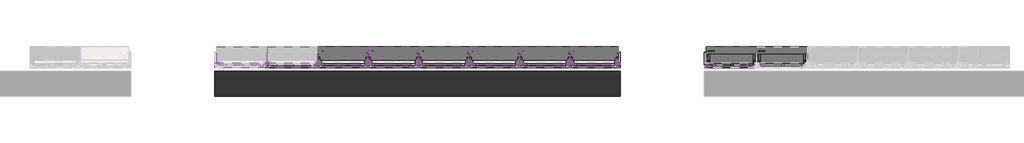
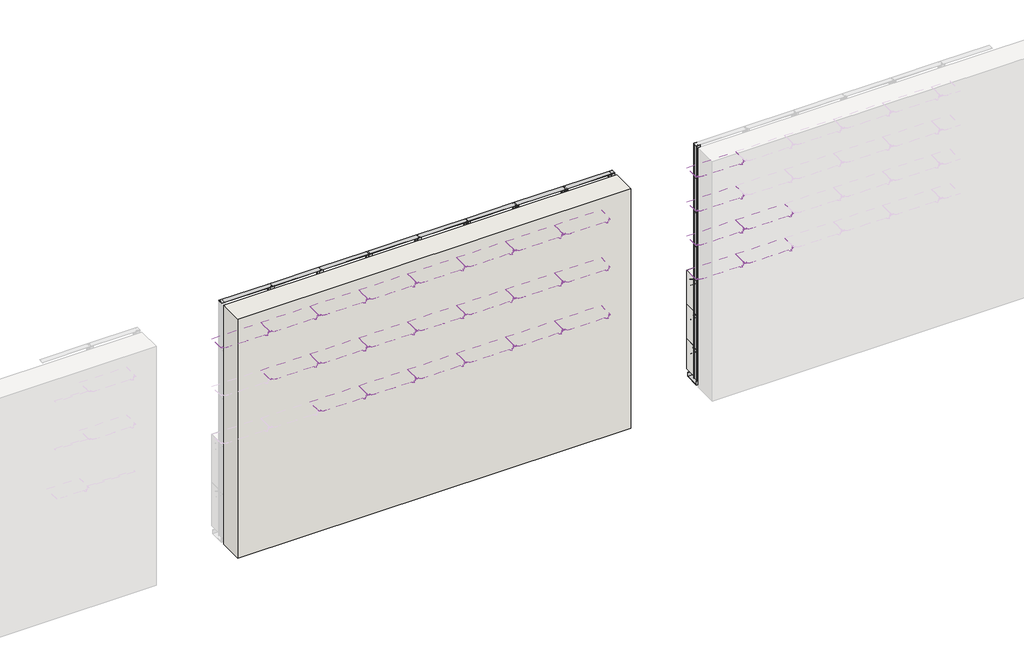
# One storey, part 2 of 3: 65 members, 45 coverings, 1 wall.
"""IFC4 building model written with IfcOpenShell, lengths in millimetres."""

from ifc_helpers import new_model, si_unit, origin, origin_with_axes, place, context, project, spatial, polyline, outline, extrude, transform, mapped, element, save
from components import covering_7a5a7cfb, covering_14e27d56, covering_8846b90d, covering_6783e6d6, covering_4e535264, covering_ffdf41f5, covering_7bb15b48, covering_409b982e, covering_d2c58fca, covering_1d8d7e28, covering_791d1fb8, covering_1240b5f1, covering_480ba4d3, covering_a3d12077, covering_8a4f5f23, covering_2c5bf4f4, covering_cad52688, covering_7eb55cab, montante_rettangolare_288d97b3, montante_rettangolare_9a79dadd, montante_rettangolare_b34aec30, montante_rettangolare_631e3b4a, montante_rettangolare_82bab0ab, montante_rettangolare_3784d46b, montante_rettangolare_b888e0b9, montante_rettangolare_38dc3529, montante_rettangolare_140c7172, montante_rettangolare_5246278a, montante_rettangolare_babdd543, montante_rettangolare_953541ee, montante_rettangolare_093b8246, montante_rettangolare_19d1f5be, montante_rettangolare_26806b37, montante_rettangolare_d40cfa43

model = new_model("IFC4")

# Units and contexts
model_context = context("Model", 3, world=origin())
ifc_project = project(units=[si_unit("LENGTHUNIT", "METRE", prefix="MILLI")], contexts=[model_context])

# Site, building, storey
site = spatial("IfcSite", under=ifc_project)
building = spatial("IfcBuilding", under=site)
storey = spatial("IfcBuildingStorey", under=building, Name="Plant view - Fine details level - VP Modulo", Elevation=0.0)

# Coverings
placement = place(None, origin())
covering_shape = covering_7a5a7cfb(model_context)
covering_2_shape = covering_14e27d56(model_context)
element("IfcCovering", 1, ObjectType="panel VP Modulo prova ultima texture : panel VP Modulo prova ultima texture", at=placement, inside=storey, context=model_context, shape_type="MappedRepresentation", body=[
    mapped(covering_shape, transform((10926.1795041, -498.0626129, 52.4801246), x_axis=(1.0, 0.0, 0.0), y_axis=(0.0, 1.0, 0.0), z_axis=(0.0, 0.0, 1.0))),
    mapped(covering_2_shape, transform((10926.1795041, -498.0626129, 52.4801246), x_axis=(1.0, 0.0, 0.0), y_axis=(0.0, 1.0, 0.0), z_axis=(0.0, 0.0, 1.0))),
])
element("IfcCovering", 2, ObjectType="panel VP Modulo prova ultima texture : panel VP Modulo prova ultima texture", at=placement, inside=storey, context=model_context, shape_type="MappedRepresentation", body=[
    mapped(covering_shape, transform((11526.1795041, -498.0626129, 52.4801246), x_axis=(1.0, 0.0, 0.0), y_axis=(0.0, 1.0, 0.0), z_axis=(0.0, 0.0, 1.0))),
    mapped(covering_2_shape, transform((11526.1795041, -498.0626129, 52.4801246), x_axis=(1.0, 0.0, 0.0), y_axis=(0.0, 1.0, 0.0), z_axis=(0.0, 0.0, 1.0))),
])
covering_3_shape = covering_8846b90d(model_context)
covering_4_shape = covering_6783e6d6(model_context)
element("IfcCovering", 3, ObjectType="panel VP Modulo prova ultima texture : panel VP Modulo prova ultima texture", at=placement, inside=storey, context=model_context, shape_type="MappedRepresentation", body=[
    mapped(covering_3_shape, transform((10926.1795041, -498.0626129, 442.8571429), x_axis=(1.0, 0.0, 0.0), y_axis=(0.0, 1.0, 0.0), z_axis=(0.0, 0.0, 1.0))),
    mapped(covering_4_shape, transform((10926.1795041, -498.0626129, 442.8571429), x_axis=(1.0, 0.0, 0.0), y_axis=(0.0, 1.0, 0.0), z_axis=(0.0, 0.0, 1.0))),
])
element("IfcCovering", 4, ObjectType="panel VP Modulo prova ultima texture : panel VP Modulo prova ultima texture", at=placement, inside=storey, context=model_context, shape_type="MappedRepresentation", body=[
    mapped(covering_3_shape, transform((11526.1795041, -498.0626129, 442.8571429), x_axis=(1.0, 0.0, 0.0), y_axis=(0.0, 1.0, 0.0), z_axis=(0.0, 0.0, 1.0))),
    mapped(covering_4_shape, transform((11526.1795041, -498.0626129, 442.8571429), x_axis=(1.0, 0.0, 0.0), y_axis=(0.0, 1.0, 0.0), z_axis=(0.0, 0.0, 1.0))),
])
element("IfcCovering", 5, ObjectType="panel VP Modulo prova ultima texture : panel VP Modulo prova ultima texture", at=placement, inside=storey, context=model_context, shape_type="MappedRepresentation", body=[
    mapped(covering_3_shape, transform((10926.1795041, -498.0626129, 885.7142857), x_axis=(1.0, 0.0, 0.0), y_axis=(0.0, 1.0, 0.0), z_axis=(0.0, 0.0, 1.0))),
    mapped(covering_4_shape, transform((10926.1795041, -498.0626129, 885.7142857), x_axis=(1.0, 0.0, 0.0), y_axis=(0.0, 1.0, 0.0), z_axis=(0.0, 0.0, 1.0))),
])
element("IfcCovering", 6, ObjectType="panel VP Modulo prova ultima texture : panel VP Modulo prova ultima texture", at=placement, inside=storey, context=model_context, shape_type="MappedRepresentation", body=[
    mapped(covering_3_shape, transform((11526.1795041, -498.0626129, 885.7142857), x_axis=(1.0, 0.0, 0.0), y_axis=(0.0, 1.0, 0.0), z_axis=(0.0, 0.0, 1.0))),
    mapped(covering_4_shape, transform((11526.1795041, -498.0626129, 885.7142857), x_axis=(1.0, 0.0, 0.0), y_axis=(0.0, 1.0, 0.0), z_axis=(0.0, 0.0, 1.0))),
])
element("IfcCovering", 7, ObjectType="panel VP Modulo prova ultima texture : panel VP Modulo prova ultima texture", at=placement, inside=storey, context=model_context, shape_type="MappedRepresentation", body=[
    mapped(covering_3_shape, transform((10926.1795041, -498.0626129, 1328.5714286), x_axis=(1.0, 0.0, 0.0), y_axis=(0.0, 1.0, 0.0), z_axis=(0.0, 0.0, 1.0))),
    mapped(covering_4_shape, transform((10926.1795041, -498.0626129, 1328.5714286), x_axis=(1.0, 0.0, 0.0), y_axis=(0.0, 1.0, 0.0), z_axis=(0.0, 0.0, 1.0))),
])
element("IfcCovering", 8, ObjectType="panel VP Modulo prova ultima texture : panel VP Modulo prova ultima texture", at=placement, inside=storey, context=model_context, shape_type="MappedRepresentation", body=[
    mapped(covering_3_shape, transform((11526.1795041, -498.0626129, 1328.5714286), x_axis=(1.0, 0.0, 0.0), y_axis=(0.0, 1.0, 0.0), z_axis=(0.0, 0.0, 1.0))),
    mapped(covering_4_shape, transform((11526.1795041, -498.0626129, 1328.5714286), x_axis=(1.0, 0.0, 0.0), y_axis=(0.0, 1.0, 0.0), z_axis=(0.0, 0.0, 1.0))),
])
element("IfcCovering", 9, ObjectType="panel VP Modulo prova ultima texture : panel VP Modulo prova ultima texture", at=placement, inside=storey, context=model_context, shape_type="MappedRepresentation", body=[
    mapped(covering_3_shape, transform((10926.1795041, -498.0626129, 1771.4285714), x_axis=(1.0, 0.0, 0.0), y_axis=(0.0, 1.0, 0.0), z_axis=(0.0, 0.0, 1.0))),
    mapped(covering_4_shape, transform((10926.1795041, -498.0626129, 1771.4285714), x_axis=(1.0, 0.0, 0.0), y_axis=(0.0, 1.0, 0.0), z_axis=(0.0, 0.0, 1.0))),
])
element("IfcCovering", 10, ObjectType="panel VP Modulo prova ultima texture : panel VP Modulo prova ultima texture", at=placement, inside=storey, context=model_context, shape_type="MappedRepresentation", body=[
    mapped(covering_3_shape, transform((11526.1795041, -498.0626129, 1771.4285714), x_axis=(1.0, 0.0, 0.0), y_axis=(0.0, 1.0, 0.0), z_axis=(0.0, 0.0, 1.0))),
    mapped(covering_4_shape, transform((11526.1795041, -498.0626129, 1771.4285714), x_axis=(1.0, 0.0, 0.0), y_axis=(0.0, 1.0, 0.0), z_axis=(0.0, 0.0, 1.0))),
])
element("IfcCovering", 11, ObjectType="panel VP Modulo prova ultima texture : panel VP Modulo prova ultima texture", at=placement, inside=storey, context=model_context, shape_type="MappedRepresentation", body=[
    mapped(covering_3_shape, transform((10926.1795041, -498.0626129, 2214.2857143), x_axis=(1.0, 0.0, 0.0), y_axis=(0.0, 1.0, 0.0), z_axis=(0.0, 0.0, 1.0))),
    mapped(covering_4_shape, transform((10926.1795041, -498.0626129, 2214.2857143), x_axis=(1.0, 0.0, 0.0), y_axis=(0.0, 1.0, 0.0), z_axis=(0.0, 0.0, 1.0))),
])
covering_5_shape = covering_4e535264(model_context)
covering_6_shape = covering_ffdf41f5(model_context)
element("IfcCovering", 12, ObjectType="panel VP Modulo prova ultima texture : panel VP Modulo prova ultima texture", at=placement, inside=storey, context=model_context, shape_type="MappedRepresentation", body=[
    mapped(covering_5_shape, transform((10926.1795041, -498.0626129, 2657.1428571), x_axis=(1.0, 0.0, 0.0), y_axis=(0.0, 1.0, 0.0), z_axis=(0.0, 0.0, 1.0))),
    mapped(covering_6_shape, transform((10926.1795041, -498.0626129, 2657.1428571), x_axis=(1.0, 0.0, 0.0), y_axis=(0.0, 1.0, 0.0), z_axis=(0.0, 0.0, 1.0))),
])
covering_7_shape = covering_7bb15b48(model_context)
covering_8_shape = covering_409b982e(model_context)
element("IfcCovering", 13, ObjectType="panel VP Modulo prova ultima texture : panel VP Modulo prova ultima texture", at=placement, inside=storey, context=model_context, shape_type="MappedRepresentation", body=[
    mapped(covering_7_shape, transform((6306.1795041, -498.0626129, 52.4801246), x_axis=(1.0, 0.0, 0.0), y_axis=(0.0, 1.0, 0.0), z_axis=(0.0, 0.0, 1.0))),
    mapped(covering_8_shape, transform((6306.1795041, -498.0626129, 52.4801246), x_axis=(1.0, 0.0, 0.0), y_axis=(0.0, 1.0, 0.0), z_axis=(0.0, 0.0, 1.0))),
])
element("IfcCovering", 14, ObjectType="panel VP Modulo prova ultima texture : panel VP Modulo prova ultima texture", at=placement, inside=storey, context=model_context, shape_type="MappedRepresentation", body=[
    mapped(covering_7_shape, transform((6906.1795041, -498.0626129, 52.4801246), x_axis=(1.0, 0.0, 0.0), y_axis=(0.0, 1.0, 0.0), z_axis=(0.0, 0.0, 1.0))),
    mapped(covering_8_shape, transform((6906.1795041, -498.0626129, 52.4801246), x_axis=(1.0, 0.0, 0.0), y_axis=(0.0, 1.0, 0.0), z_axis=(0.0, 0.0, 1.0))),
])
element("IfcCovering", 15, ObjectType="panel VP Modulo prova ultima texture : panel VP Modulo prova ultima texture", at=placement, inside=storey, context=model_context, shape_type="MappedRepresentation", body=[
    mapped(covering_7_shape, transform((7506.1795041, -498.0626129, 52.4801246), x_axis=(1.0, 0.0, 0.0), y_axis=(0.0, 1.0, 0.0), z_axis=(0.0, 0.0, 1.0))),
    mapped(covering_8_shape, transform((7506.1795041, -498.0626129, 52.4801246), x_axis=(1.0, 0.0, 0.0), y_axis=(0.0, 1.0, 0.0), z_axis=(0.0, 0.0, 1.0))),
])
element("IfcCovering", 16, ObjectType="panel VP Modulo prova ultima texture : panel VP Modulo prova ultima texture", at=placement, inside=storey, context=model_context, shape_type="MappedRepresentation", body=[
    mapped(covering_7_shape, transform((8106.1795041, -498.0626129, 52.4801246), x_axis=(1.0, 0.0, 0.0), y_axis=(0.0, 1.0, 0.0), z_axis=(0.0, 0.0, 1.0))),
    mapped(covering_8_shape, transform((8106.1795041, -498.0626129, 52.4801246), x_axis=(1.0, 0.0, 0.0), y_axis=(0.0, 1.0, 0.0), z_axis=(0.0, 0.0, 1.0))),
])
element("IfcCovering", 17, ObjectType="panel VP Modulo prova ultima texture : panel VP Modulo prova ultima texture", at=placement, inside=storey, context=model_context, shape_type="MappedRepresentation", body=[
    mapped(covering_7_shape, transform((8706.1795041, -498.0626129, 52.4801246), x_axis=(1.0, 0.0, 0.0), y_axis=(0.0, 1.0, 0.0), z_axis=(0.0, 0.0, 1.0))),
    mapped(covering_8_shape, transform((8706.1795041, -498.0626129, 52.4801246), x_axis=(1.0, 0.0, 0.0), y_axis=(0.0, 1.0, 0.0), z_axis=(0.0, 0.0, 1.0))),
])
covering_9_shape = covering_d2c58fca(model_context)
covering_10_shape = covering_1d8d7e28(model_context)
element("IfcCovering", 18, ObjectType="panel VP Modulo prova ultima texture : panel VP Modulo prova ultima texture", at=placement, inside=storey, context=model_context, shape_type="MappedRepresentation", body=[
    mapped(covering_9_shape, transform((9292.41991, -498.0626129, 52.4801246), x_axis=(1.0, 0.0, 0.0), y_axis=(0.0, 1.0, 0.0), z_axis=(0.0, 0.0, 1.0))),
    mapped(covering_10_shape, transform((9292.41991, -498.0626129, 52.4801246), x_axis=(1.0, 0.0, 0.0), y_axis=(0.0, 1.0, 0.0), z_axis=(0.0, 0.0, 1.0))),
])
covering_11_shape = covering_791d1fb8(model_context)
covering_12_shape = covering_1240b5f1(model_context)
element("IfcCovering", 19, ObjectType="panel VP Modulo prova ultima texture : panel VP Modulo prova ultima texture", at=placement, inside=storey, context=model_context, shape_type="MappedRepresentation", body=[
    mapped(covering_11_shape, transform((6306.1795041, -498.0626129, 620.0), x_axis=(1.0, 0.0, 0.0), y_axis=(0.0, 1.0, 0.0), z_axis=(0.0, 0.0, 1.0))),
    mapped(covering_12_shape, transform((6306.1795041, -498.0626129, 620.0), x_axis=(1.0, 0.0, 0.0), y_axis=(0.0, 1.0, 0.0), z_axis=(0.0, 0.0, 1.0))),
])
element("IfcCovering", 20, ObjectType="panel VP Modulo prova ultima texture : panel VP Modulo prova ultima texture", at=placement, inside=storey, context=model_context, shape_type="MappedRepresentation", body=[
    mapped(covering_11_shape, transform((6906.1795041, -498.0626129, 620.0), x_axis=(1.0, 0.0, 0.0), y_axis=(0.0, 1.0, 0.0), z_axis=(0.0, 0.0, 1.0))),
    mapped(covering_12_shape, transform((6906.1795041, -498.0626129, 620.0), x_axis=(1.0, 0.0, 0.0), y_axis=(0.0, 1.0, 0.0), z_axis=(0.0, 0.0, 1.0))),
])
element("IfcCovering", 21, ObjectType="panel VP Modulo prova ultima texture : panel VP Modulo prova ultima texture", at=placement, inside=storey, context=model_context, shape_type="MappedRepresentation", body=[
    mapped(covering_11_shape, transform((7506.1795041, -498.0626129, 620.0), x_axis=(1.0, 0.0, 0.0), y_axis=(0.0, 1.0, 0.0), z_axis=(0.0, 0.0, 1.0))),
    mapped(covering_12_shape, transform((7506.1795041, -498.0626129, 620.0), x_axis=(1.0, 0.0, 0.0), y_axis=(0.0, 1.0, 0.0), z_axis=(0.0, 0.0, 1.0))),
])
element("IfcCovering", 22, ObjectType="panel VP Modulo prova ultima texture : panel VP Modulo prova ultima texture", at=placement, inside=storey, context=model_context, shape_type="MappedRepresentation", body=[
    mapped(covering_11_shape, transform((8106.1795041, -498.0626129, 620.0), x_axis=(1.0, 0.0, 0.0), y_axis=(0.0, 1.0, 0.0), z_axis=(0.0, 0.0, 1.0))),
    mapped(covering_12_shape, transform((8106.1795041, -498.0626129, 620.0), x_axis=(1.0, 0.0, 0.0), y_axis=(0.0, 1.0, 0.0), z_axis=(0.0, 0.0, 1.0))),
])
element("IfcCovering", 23, ObjectType="panel VP Modulo prova ultima texture : panel VP Modulo prova ultima texture", at=placement, inside=storey, context=model_context, shape_type="MappedRepresentation", body=[
    mapped(covering_11_shape, transform((8706.1795041, -498.0626129, 620.0), x_axis=(1.0, 0.0, 0.0), y_axis=(0.0, 1.0, 0.0), z_axis=(0.0, 0.0, 1.0))),
    mapped(covering_12_shape, transform((8706.1795041, -498.0626129, 620.0), x_axis=(1.0, 0.0, 0.0), y_axis=(0.0, 1.0, 0.0), z_axis=(0.0, 0.0, 1.0))),
])
element("IfcCovering", 24, ObjectType="panel VP Modulo prova ultima texture : panel VP Modulo prova ultima texture", at=placement, inside=storey, context=model_context, shape_type="MappedRepresentation", body=[
    mapped(covering_11_shape, transform((6306.1795041, -498.0626129, 1240.0), x_axis=(1.0, 0.0, 0.0), y_axis=(0.0, 1.0, 0.0), z_axis=(0.0, 0.0, 1.0))),
    mapped(covering_12_shape, transform((6306.1795041, -498.0626129, 1240.0), x_axis=(1.0, 0.0, 0.0), y_axis=(0.0, 1.0, 0.0), z_axis=(0.0, 0.0, 1.0))),
])
element("IfcCovering", 25, ObjectType="panel VP Modulo prova ultima texture : panel VP Modulo prova ultima texture", at=placement, inside=storey, context=model_context, shape_type="MappedRepresentation", body=[
    mapped(covering_11_shape, transform((6906.1795041, -498.0626129, 1240.0), x_axis=(1.0, 0.0, 0.0), y_axis=(0.0, 1.0, 0.0), z_axis=(0.0, 0.0, 1.0))),
    mapped(covering_12_shape, transform((6906.1795041, -498.0626129, 1240.0), x_axis=(1.0, 0.0, 0.0), y_axis=(0.0, 1.0, 0.0), z_axis=(0.0, 0.0, 1.0))),
])
element("IfcCovering", 26, ObjectType="panel VP Modulo prova ultima texture : panel VP Modulo prova ultima texture", at=placement, inside=storey, context=model_context, shape_type="MappedRepresentation", body=[
    mapped(covering_11_shape, transform((7506.1795041, -498.0626129, 1240.0), x_axis=(1.0, 0.0, 0.0), y_axis=(0.0, 1.0, 0.0), z_axis=(0.0, 0.0, 1.0))),
    mapped(covering_12_shape, transform((7506.1795041, -498.0626129, 1240.0), x_axis=(1.0, 0.0, 0.0), y_axis=(0.0, 1.0, 0.0), z_axis=(0.0, 0.0, 1.0))),
])
element("IfcCovering", 27, ObjectType="panel VP Modulo prova ultima texture : panel VP Modulo prova ultima texture", at=placement, inside=storey, context=model_context, shape_type="MappedRepresentation", body=[
    mapped(covering_11_shape, transform((8106.1795041, -498.0626129, 1240.0), x_axis=(1.0, 0.0, 0.0), y_axis=(0.0, 1.0, 0.0), z_axis=(0.0, 0.0, 1.0))),
    mapped(covering_12_shape, transform((8106.1795041, -498.0626129, 1240.0), x_axis=(1.0, 0.0, 0.0), y_axis=(0.0, 1.0, 0.0), z_axis=(0.0, 0.0, 1.0))),
])
element("IfcCovering", 28, ObjectType="panel VP Modulo prova ultima texture : panel VP Modulo prova ultima texture", at=placement, inside=storey, context=model_context, shape_type="MappedRepresentation", body=[
    mapped(covering_11_shape, transform((8706.1795041, -498.0626129, 1240.0), x_axis=(1.0, 0.0, 0.0), y_axis=(0.0, 1.0, 0.0), z_axis=(0.0, 0.0, 1.0))),
    mapped(covering_12_shape, transform((8706.1795041, -498.0626129, 1240.0), x_axis=(1.0, 0.0, 0.0), y_axis=(0.0, 1.0, 0.0), z_axis=(0.0, 0.0, 1.0))),
])
element("IfcCovering", 29, ObjectType="panel VP Modulo prova ultima texture : panel VP Modulo prova ultima texture", at=placement, inside=storey, context=model_context, shape_type="MappedRepresentation", body=[
    mapped(covering_11_shape, transform((5706.1795041, -498.0626129, 1860.0), x_axis=(1.0, 0.0, 0.0), y_axis=(0.0, 1.0, 0.0), z_axis=(0.0, 0.0, 1.0))),
    mapped(covering_12_shape, transform((5706.1795041, -498.0626129, 1860.0), x_axis=(1.0, 0.0, 0.0), y_axis=(0.0, 1.0, 0.0), z_axis=(0.0, 0.0, 1.0))),
])
element("IfcCovering", 30, ObjectType="panel VP Modulo prova ultima texture : panel VP Modulo prova ultima texture", at=placement, inside=storey, context=model_context, shape_type="MappedRepresentation", body=[
    mapped(covering_11_shape, transform((6306.1795041, -498.0626129, 1860.0), x_axis=(1.0, 0.0, 0.0), y_axis=(0.0, 1.0, 0.0), z_axis=(0.0, 0.0, 1.0))),
    mapped(covering_12_shape, transform((6306.1795041, -498.0626129, 1860.0), x_axis=(1.0, 0.0, 0.0), y_axis=(0.0, 1.0, 0.0), z_axis=(0.0, 0.0, 1.0))),
])
element("IfcCovering", 31, ObjectType="panel VP Modulo prova ultima texture : panel VP Modulo prova ultima texture", at=placement, inside=storey, context=model_context, shape_type="MappedRepresentation", body=[
    mapped(covering_11_shape, transform((6906.1795041, -498.0626129, 1860.0), x_axis=(1.0, 0.0, 0.0), y_axis=(0.0, 1.0, 0.0), z_axis=(0.0, 0.0, 1.0))),
    mapped(covering_12_shape, transform((6906.1795041, -498.0626129, 1860.0), x_axis=(1.0, 0.0, 0.0), y_axis=(0.0, 1.0, 0.0), z_axis=(0.0, 0.0, 1.0))),
])
element("IfcCovering", 32, ObjectType="panel VP Modulo prova ultima texture : panel VP Modulo prova ultima texture", at=placement, inside=storey, context=model_context, shape_type="MappedRepresentation", body=[
    mapped(covering_11_shape, transform((7506.1795041, -498.0626129, 1860.0), x_axis=(1.0, 0.0, 0.0), y_axis=(0.0, 1.0, 0.0), z_axis=(0.0, 0.0, 1.0))),
    mapped(covering_12_shape, transform((7506.1795041, -498.0626129, 1860.0), x_axis=(1.0, 0.0, 0.0), y_axis=(0.0, 1.0, 0.0), z_axis=(0.0, 0.0, 1.0))),
])
element("IfcCovering", 33, ObjectType="panel VP Modulo prova ultima texture : panel VP Modulo prova ultima texture", at=placement, inside=storey, context=model_context, shape_type="MappedRepresentation", body=[
    mapped(covering_11_shape, transform((8106.1795041, -498.0626129, 1860.0), x_axis=(1.0, 0.0, 0.0), y_axis=(0.0, 1.0, 0.0), z_axis=(0.0, 0.0, 1.0))),
    mapped(covering_12_shape, transform((8106.1795041, -498.0626129, 1860.0), x_axis=(1.0, 0.0, 0.0), y_axis=(0.0, 1.0, 0.0), z_axis=(0.0, 0.0, 1.0))),
])
element("IfcCovering", 34, ObjectType="panel VP Modulo prova ultima texture : panel VP Modulo prova ultima texture", at=placement, inside=storey, context=model_context, shape_type="MappedRepresentation", body=[
    mapped(covering_11_shape, transform((8706.1795041, -498.0626129, 1860.0), x_axis=(1.0, 0.0, 0.0), y_axis=(0.0, 1.0, 0.0), z_axis=(0.0, 0.0, 1.0))),
    mapped(covering_12_shape, transform((8706.1795041, -498.0626129, 1860.0), x_axis=(1.0, 0.0, 0.0), y_axis=(0.0, 1.0, 0.0), z_axis=(0.0, 0.0, 1.0))),
])
covering_13_shape = covering_480ba4d3(model_context)
covering_14_shape = covering_a3d12077(model_context)
element("IfcCovering", 35, ObjectType="panel VP Modulo prova ultima texture : panel VP Modulo prova ultima texture", at=placement, inside=storey, context=model_context, shape_type="MappedRepresentation", body=[
    mapped(covering_13_shape, transform((9292.41991, -498.0626129, 620.0), x_axis=(1.0, 0.0, 0.0), y_axis=(0.0, 1.0, 0.0), z_axis=(0.0, 0.0, 1.0))),
    mapped(covering_14_shape, transform((9292.41991, -498.0626129, 620.0), x_axis=(1.0, 0.0, 0.0), y_axis=(0.0, 1.0, 0.0), z_axis=(0.0, 0.0, 1.0))),
])
element("IfcCovering", 36, ObjectType="panel VP Modulo prova ultima texture : panel VP Modulo prova ultima texture", at=placement, inside=storey, context=model_context, shape_type="MappedRepresentation", body=[
    mapped(covering_13_shape, transform((9292.41991, -498.0626129, 1240.0), x_axis=(1.0, 0.0, 0.0), y_axis=(0.0, 1.0, 0.0), z_axis=(0.0, 0.0, 1.0))),
    mapped(covering_14_shape, transform((9292.41991, -498.0626129, 1240.0), x_axis=(1.0, 0.0, 0.0), y_axis=(0.0, 1.0, 0.0), z_axis=(0.0, 0.0, 1.0))),
])
element("IfcCovering", 37, ObjectType="panel VP Modulo prova ultima texture : panel VP Modulo prova ultima texture", at=placement, inside=storey, context=model_context, shape_type="MappedRepresentation", body=[
    mapped(covering_13_shape, transform((9292.41991, -498.0626129, 1860.0), x_axis=(1.0, 0.0, 0.0), y_axis=(0.0, 1.0, 0.0), z_axis=(0.0, 0.0, 1.0))),
    mapped(covering_14_shape, transform((9292.41991, -498.0626129, 1860.0), x_axis=(1.0, 0.0, 0.0), y_axis=(0.0, 1.0, 0.0), z_axis=(0.0, 0.0, 1.0))),
])
covering_15_shape = covering_8a4f5f23(model_context)
covering_16_shape = covering_2c5bf4f4(model_context)
element("IfcCovering", 38, ObjectType="panel VP Modulo prova ultima texture : panel VP Modulo prova ultima texture", at=placement, inside=storey, context=model_context, shape_type="MappedRepresentation", body=[
    mapped(covering_15_shape, transform((5106.1795041, -498.0626129, 2480.0), x_axis=(1.0, 0.0, 0.0), y_axis=(0.0, 1.0, 0.0), z_axis=(0.0, 0.0, 1.0))),
    mapped(covering_16_shape, transform((5106.1795041, -498.0626129, 2480.0), x_axis=(1.0, 0.0, 0.0), y_axis=(0.0, 1.0, 0.0), z_axis=(0.0, 0.0, 1.0))),
])
element("IfcCovering", 39, ObjectType="panel VP Modulo prova ultima texture : panel VP Modulo prova ultima texture", at=placement, inside=storey, context=model_context, shape_type="MappedRepresentation", body=[
    mapped(covering_15_shape, transform((5706.1795041, -498.0626129, 2480.0), x_axis=(1.0, 0.0, 0.0), y_axis=(0.0, 1.0, 0.0), z_axis=(0.0, 0.0, 1.0))),
    mapped(covering_16_shape, transform((5706.1795041, -498.0626129, 2480.0), x_axis=(1.0, 0.0, 0.0), y_axis=(0.0, 1.0, 0.0), z_axis=(0.0, 0.0, 1.0))),
])
element("IfcCovering", 40, ObjectType="panel VP Modulo prova ultima texture : panel VP Modulo prova ultima texture", at=placement, inside=storey, context=model_context, shape_type="MappedRepresentation", body=[
    mapped(covering_15_shape, transform((6306.1795041, -498.0626129, 2480.0), x_axis=(1.0, 0.0, 0.0), y_axis=(0.0, 1.0, 0.0), z_axis=(0.0, 0.0, 1.0))),
    mapped(covering_16_shape, transform((6306.1795041, -498.0626129, 2480.0), x_axis=(1.0, 0.0, 0.0), y_axis=(0.0, 1.0, 0.0), z_axis=(0.0, 0.0, 1.0))),
])
element("IfcCovering", 41, ObjectType="panel VP Modulo prova ultima texture : panel VP Modulo prova ultima texture", at=placement, inside=storey, context=model_context, shape_type="MappedRepresentation", body=[
    mapped(covering_15_shape, transform((6906.1795041, -498.0626129, 2480.0), x_axis=(1.0, 0.0, 0.0), y_axis=(0.0, 1.0, 0.0), z_axis=(0.0, 0.0, 1.0))),
    mapped(covering_16_shape, transform((6906.1795041, -498.0626129, 2480.0), x_axis=(1.0, 0.0, 0.0), y_axis=(0.0, 1.0, 0.0), z_axis=(0.0, 0.0, 1.0))),
])
element("IfcCovering", 42, ObjectType="panel VP Modulo prova ultima texture : panel VP Modulo prova ultima texture", at=placement, inside=storey, context=model_context, shape_type="MappedRepresentation", body=[
    mapped(covering_15_shape, transform((7506.1795041, -498.0626129, 2480.0), x_axis=(1.0, 0.0, 0.0), y_axis=(0.0, 1.0, 0.0), z_axis=(0.0, 0.0, 1.0))),
    mapped(covering_16_shape, transform((7506.1795041, -498.0626129, 2480.0), x_axis=(1.0, 0.0, 0.0), y_axis=(0.0, 1.0, 0.0), z_axis=(0.0, 0.0, 1.0))),
])
element("IfcCovering", 43, ObjectType="panel VP Modulo prova ultima texture : panel VP Modulo prova ultima texture", at=placement, inside=storey, context=model_context, shape_type="MappedRepresentation", body=[
    mapped(covering_15_shape, transform((8106.1795041, -498.0626129, 2480.0), x_axis=(1.0, 0.0, 0.0), y_axis=(0.0, 1.0, 0.0), z_axis=(0.0, 0.0, 1.0))),
    mapped(covering_16_shape, transform((8106.1795041, -498.0626129, 2480.0), x_axis=(1.0, 0.0, 0.0), y_axis=(0.0, 1.0, 0.0), z_axis=(0.0, 0.0, 1.0))),
])
element("IfcCovering", 44, ObjectType="panel VP Modulo prova ultima texture : panel VP Modulo prova ultima texture", at=placement, inside=storey, context=model_context, shape_type="MappedRepresentation", body=[
    mapped(covering_15_shape, transform((8706.1795041, -498.0626129, 2480.0), x_axis=(1.0, 0.0, 0.0), y_axis=(0.0, 1.0, 0.0), z_axis=(0.0, 0.0, 1.0))),
    mapped(covering_16_shape, transform((8706.1795041, -498.0626129, 2480.0), x_axis=(1.0, 0.0, 0.0), y_axis=(0.0, 1.0, 0.0), z_axis=(0.0, 0.0, 1.0))),
])
covering_17_shape = covering_cad52688(model_context)
covering_18_shape = covering_7eb55cab(model_context)
element("IfcCovering", 45, ObjectType="panel VP Modulo prova ultima texture : panel VP Modulo prova ultima texture", at=placement, inside=storey, context=model_context, shape_type="MappedRepresentation", body=[
    mapped(covering_17_shape, transform((9292.41991, -498.0626129, 2480.0), x_axis=(1.0, 0.0, 0.0), y_axis=(0.0, 1.0, 0.0), z_axis=(0.0, 0.0, 1.0))),
    mapped(covering_18_shape, transform((9292.41991, -498.0626129, 2480.0), x_axis=(1.0, 0.0, 0.0), y_axis=(0.0, 1.0, 0.0), z_axis=(0.0, 0.0, 1.0))),
])

# Members
montante_rettangolare_shape = montante_rettangolare_288d97b3(model_context)
element("IfcMember", 46, ObjectType="Montante rettangolare : Verde Profilo's RaceWaterDrainFloor", at=placement, inside=storey, context=model_context, shape_type="MappedRepresentation", body=[
    mapped(montante_rettangolare_shape, transform((10602.41991, -498.0626129, 0.0), x_axis=(0.0, 0.0, -1.0), y_axis=(0.0, -1.0, 0.0), z_axis=(-1.0, 0.0, 0.0))),
])
montante_rettangolare_2_shape = montante_rettangolare_9a79dadd(model_context)
element("IfcMember", 47, ObjectType="Montante rettangolare : Verde Profilo's RaceWaterDrainFloor", at=placement, inside=storey, context=model_context, shape_type="MappedRepresentation", body=[
    mapped(montante_rettangolare_2_shape, transform((5406.1795041, -498.0626129, 0.0), x_axis=(0.0, 0.0, -1.0), y_axis=(0.0, -1.0, 0.0), z_axis=(-1.0, 0.0, 0.0))),
])
element("IfcMember", 48, ObjectType="Montante rettangolare : Verde Profilo's RaceWaterDrainFloor", at=placement, inside=storey, context=model_context, shape_type="MappedRepresentation", body=[
    mapped(montante_rettangolare_2_shape, transform((6006.1795041, -498.0626129, 0.0), x_axis=(0.0, 0.0, -1.0), y_axis=(0.0, -1.0, 0.0), z_axis=(-1.0, 0.0, 0.0))),
])
element("IfcMember", 49, ObjectType="Montante rettangolare : Verde Profilo's RaceWaterDrainFloor", at=placement, inside=storey, context=model_context, shape_type="MappedRepresentation", body=[
    mapped(montante_rettangolare_2_shape, transform((6606.1795041, -498.0626129, 0.0), x_axis=(0.0, 0.0, -1.0), y_axis=(0.0, -1.0, 0.0), z_axis=(-1.0, 0.0, 0.0))),
])
element("IfcMember", 50, ObjectType="Montante rettangolare : Verde Profilo's RaceWaterDrainFloor", at=placement, inside=storey, context=model_context, shape_type="MappedRepresentation", body=[
    mapped(montante_rettangolare_2_shape, transform((7206.1795041, -498.0626129, 0.0), x_axis=(0.0, 0.0, -1.0), y_axis=(0.0, -1.0, 0.0), z_axis=(-1.0, 0.0, 0.0))),
])
element("IfcMember", 51, ObjectType="Montante rettangolare : Verde Profilo's RaceWaterDrainFloor", at=placement, inside=storey, context=model_context, shape_type="MappedRepresentation", body=[
    mapped(montante_rettangolare_2_shape, transform((7806.1795041, -498.0626129, 0.0), x_axis=(0.0, 0.0, -1.0), y_axis=(0.0, -1.0, 0.0), z_axis=(-1.0, 0.0, 0.0))),
])
element("IfcMember", 52, ObjectType="Montante rettangolare : Verde Profilo's RaceWaterDrainFloor", at=placement, inside=storey, context=model_context, shape_type="MappedRepresentation", body=[
    mapped(montante_rettangolare_2_shape, transform((8406.1795041, -498.0626129, 0.0), x_axis=(0.0, 0.0, -1.0), y_axis=(0.0, -1.0, 0.0), z_axis=(-1.0, 0.0, 0.0))),
])
montante_rettangolare_3_shape = montante_rettangolare_b34aec30(model_context)
element("IfcMember", 53, ObjectType="Montante rettangolare : Verde Profilo's RaceWaterDrainFloor", at=placement, inside=storey, context=model_context, shape_type="MappedRepresentation", body=[
    mapped(montante_rettangolare_3_shape, transform((9006.1795041, -498.0626129, 0.0), x_axis=(0.0, 0.0, -1.0), y_axis=(0.0, -1.0, 0.0), z_axis=(-1.0, 0.0, 0.0))),
])
montante_rettangolare_4_shape = montante_rettangolare_631e3b4a(model_context)
element("IfcMember", 54, ObjectType="Montante rettangolare : Verde Profilo's Uprights", at=placement, inside=storey, context=model_context, shape_type="MappedRepresentation", body=[
    mapped(montante_rettangolare_4_shape, transform((11226.1795041, -498.0626129, 52.4801246), x_axis=(1.0, 0.0, 0.0), y_axis=(0.0, -1.0, 0.0), z_axis=(0.0, 0.0, -1.0))),
])
element("IfcMember", 55, ObjectType="Montante rettangolare : Verde Profilo's Uprights", at=placement, inside=storey, context=model_context, shape_type="MappedRepresentation", body=[
    mapped(montante_rettangolare_4_shape, transform((11826.1795041, -498.0626129, 52.4801246), x_axis=(1.0, 0.0, 0.0), y_axis=(0.0, -1.0, 0.0), z_axis=(0.0, 0.0, -1.0))),
])
montante_rettangolare_5_shape = montante_rettangolare_82bab0ab(model_context)
element("IfcMember", 56, ObjectType="Montante rettangolare : Verde Profilo's Uprights", at=placement, inside=storey, context=model_context, shape_type="MappedRepresentation", body=[
    mapped(montante_rettangolare_5_shape, transform((10602.41991, -498.0626129, 442.8571429), x_axis=(-1.0, 0.0, 0.0), y_axis=(0.0, -1.0, 0.0), z_axis=(0.0, 0.0, 1.0))),
])
montante_rettangolare_6_shape = montante_rettangolare_3784d46b(model_context)
element("IfcMember", 57, ObjectType="Montante rettangolare : Verde Profilo's Uprights", at=placement, inside=storey, context=model_context, shape_type="MappedRepresentation", body=[
    mapped(montante_rettangolare_6_shape, transform((10602.41991, -498.0626129, 885.7142857), x_axis=(-1.0, 0.0, 0.0), y_axis=(0.0, -1.0, 0.0), z_axis=(0.0, 0.0, 1.0))),
])
element("IfcMember", 58, ObjectType="Montante rettangolare : Verde Profilo's Uprights", at=placement, inside=storey, context=model_context, shape_type="MappedRepresentation", body=[
    mapped(montante_rettangolare_6_shape, transform((10602.41991, -498.0626129, 1328.5714286), x_axis=(-1.0, 0.0, 0.0), y_axis=(0.0, -1.0, 0.0), z_axis=(0.0, 0.0, 1.0))),
])
element("IfcMember", 59, ObjectType="Montante rettangolare : Verde Profilo's Uprights", at=placement, inside=storey, context=model_context, shape_type="MappedRepresentation", body=[
    mapped(montante_rettangolare_6_shape, transform((10602.41991, -498.0626129, 1771.4285714), x_axis=(-1.0, 0.0, 0.0), y_axis=(0.0, -1.0, 0.0), z_axis=(0.0, 0.0, 1.0))),
])
element("IfcMember", 60, ObjectType="Montante rettangolare : Verde Profilo's Uprights", at=placement, inside=storey, context=model_context, shape_type="MappedRepresentation", body=[
    mapped(montante_rettangolare_6_shape, transform((10602.41991, -498.0626129, 2214.2857143), x_axis=(-1.0, 0.0, 0.0), y_axis=(0.0, -1.0, 0.0), z_axis=(0.0, 0.0, 1.0))),
])
element("IfcMember", 61, ObjectType="Montante rettangolare : Verde Profilo's Uprights", at=placement, inside=storey, context=model_context, shape_type="MappedRepresentation", body=[
    mapped(montante_rettangolare_6_shape, transform((10602.41991, -498.0626129, 2657.1428571), x_axis=(-1.0, 0.0, 0.0), y_axis=(0.0, -1.0, 0.0), z_axis=(0.0, 0.0, 1.0))),
])
montante_rettangolare_7_shape = montante_rettangolare_b888e0b9(model_context)
element("IfcMember", 62, ObjectType="Montante rettangolare : Verde Profilo's Uprights", at=placement, inside=storey, context=model_context, shape_type="MappedRepresentation", body=[
    mapped(montante_rettangolare_7_shape, transform((5406.1795041, -498.0626129, 52.4801246), x_axis=(1.0, 0.0, 0.0), y_axis=(0.0, -1.0, 0.0), z_axis=(0.0, 0.0, -1.0))),
])
element("IfcMember", 63, ObjectType="Montante rettangolare : Verde Profilo's Uprights", at=placement, inside=storey, context=model_context, shape_type="MappedRepresentation", body=[
    mapped(montante_rettangolare_7_shape, transform((6006.1795041, -498.0626129, 52.4801246), x_axis=(1.0, 0.0, 0.0), y_axis=(0.0, -1.0, 0.0), z_axis=(0.0, 0.0, -1.0))),
])
element("IfcMember", 64, ObjectType="Montante rettangolare : Verde Profilo's Uprights", at=placement, inside=storey, context=model_context, shape_type="MappedRepresentation", body=[
    mapped(montante_rettangolare_7_shape, transform((6606.1795041, -498.0626129, 52.4801246), x_axis=(1.0, 0.0, 0.0), y_axis=(0.0, -1.0, 0.0), z_axis=(0.0, 0.0, -1.0))),
])
element("IfcMember", 65, ObjectType="Montante rettangolare : Verde Profilo's Uprights", at=placement, inside=storey, context=model_context, shape_type="MappedRepresentation", body=[
    mapped(montante_rettangolare_7_shape, transform((7206.1795041, -498.0626129, 52.4801246), x_axis=(1.0, 0.0, 0.0), y_axis=(0.0, -1.0, 0.0), z_axis=(0.0, 0.0, -1.0))),
])
element("IfcMember", 66, ObjectType="Montante rettangolare : Verde Profilo's Uprights", at=placement, inside=storey, context=model_context, shape_type="MappedRepresentation", body=[
    mapped(montante_rettangolare_7_shape, transform((7806.1795041, -498.0626129, 52.4801246), x_axis=(1.0, 0.0, 0.0), y_axis=(0.0, -1.0, 0.0), z_axis=(0.0, 0.0, -1.0))),
])
element("IfcMember", 67, ObjectType="Montante rettangolare : Verde Profilo's Uprights", at=placement, inside=storey, context=model_context, shape_type="MappedRepresentation", body=[
    mapped(montante_rettangolare_7_shape, transform((8406.1795041, -498.0626129, 52.4801246), x_axis=(1.0, 0.0, 0.0), y_axis=(0.0, -1.0, 0.0), z_axis=(0.0, 0.0, -1.0))),
])
element("IfcMember", 68, ObjectType="Montante rettangolare : Verde Profilo's Uprights", at=placement, inside=storey, context=model_context, shape_type="MappedRepresentation", body=[
    mapped(montante_rettangolare_7_shape, transform((9006.1795041, -498.0626129, 52.4801246), x_axis=(1.0, 0.0, 0.0), y_axis=(0.0, -1.0, 0.0), z_axis=(0.0, 0.0, -1.0))),
])
montante_rettangolare_8_shape = montante_rettangolare_38dc3529(model_context)
element("IfcMember", 69, ObjectType="Montante rettangolare : Verde Profilo's Uprights", at=placement, inside=storey, context=model_context, shape_type="MappedRepresentation", body=[
    mapped(montante_rettangolare_8_shape, transform((5406.1795041, -498.0626129, 620.0), x_axis=(1.0, 0.0, 0.0), y_axis=(0.0, -1.0, 0.0), z_axis=(0.0, 0.0, -1.0))),
])
element("IfcMember", 70, ObjectType="Montante rettangolare : Verde Profilo's Uprights", at=placement, inside=storey, context=model_context, shape_type="MappedRepresentation", body=[
    mapped(montante_rettangolare_8_shape, transform((6006.1795041, -498.0626129, 620.0), x_axis=(1.0, 0.0, 0.0), y_axis=(0.0, -1.0, 0.0), z_axis=(0.0, 0.0, -1.0))),
])
element("IfcMember", 71, ObjectType="Montante rettangolare : Verde Profilo's Uprights", at=placement, inside=storey, context=model_context, shape_type="MappedRepresentation", body=[
    mapped(montante_rettangolare_8_shape, transform((6606.1795041, -498.0626129, 620.0), x_axis=(1.0, 0.0, 0.0), y_axis=(0.0, -1.0, 0.0), z_axis=(0.0, 0.0, -1.0))),
])
element("IfcMember", 72, ObjectType="Montante rettangolare : Verde Profilo's Uprights", at=placement, inside=storey, context=model_context, shape_type="MappedRepresentation", body=[
    mapped(montante_rettangolare_8_shape, transform((7206.1795041, -498.0626129, 620.0), x_axis=(1.0, 0.0, 0.0), y_axis=(0.0, -1.0, 0.0), z_axis=(0.0, 0.0, -1.0))),
])
element("IfcMember", 73, ObjectType="Montante rettangolare : Verde Profilo's Uprights", at=placement, inside=storey, context=model_context, shape_type="MappedRepresentation", body=[
    mapped(montante_rettangolare_8_shape, transform((7806.1795041, -498.0626129, 620.0), x_axis=(1.0, 0.0, 0.0), y_axis=(0.0, -1.0, 0.0), z_axis=(0.0, 0.0, -1.0))),
])
element("IfcMember", 74, ObjectType="Montante rettangolare : Verde Profilo's Uprights", at=placement, inside=storey, context=model_context, shape_type="MappedRepresentation", body=[
    mapped(montante_rettangolare_8_shape, transform((8406.1795041, -498.0626129, 620.0), x_axis=(1.0, 0.0, 0.0), y_axis=(0.0, -1.0, 0.0), z_axis=(0.0, 0.0, -1.0))),
])
element("IfcMember", 75, ObjectType="Montante rettangolare : Verde Profilo's Uprights", at=placement, inside=storey, context=model_context, shape_type="MappedRepresentation", body=[
    mapped(montante_rettangolare_8_shape, transform((9006.1795041, -498.0626129, 620.0), x_axis=(1.0, 0.0, 0.0), y_axis=(0.0, -1.0, 0.0), z_axis=(0.0, 0.0, -1.0))),
])
element("IfcMember", 76, ObjectType="Montante rettangolare : Verde Profilo's Uprights", at=placement, inside=storey, context=model_context, shape_type="MappedRepresentation", body=[
    mapped(montante_rettangolare_8_shape, transform((5406.1795041, -498.0626129, 1240.0), x_axis=(1.0, 0.0, 0.0), y_axis=(0.0, -1.0, 0.0), z_axis=(0.0, 0.0, -1.0))),
])
element("IfcMember", 77, ObjectType="Montante rettangolare : Verde Profilo's Uprights", at=placement, inside=storey, context=model_context, shape_type="MappedRepresentation", body=[
    mapped(montante_rettangolare_8_shape, transform((6006.1795041, -498.0626129, 1240.0), x_axis=(1.0, 0.0, 0.0), y_axis=(0.0, -1.0, 0.0), z_axis=(0.0, 0.0, -1.0))),
])
element("IfcMember", 78, ObjectType="Montante rettangolare : Verde Profilo's Uprights", at=placement, inside=storey, context=model_context, shape_type="MappedRepresentation", body=[
    mapped(montante_rettangolare_8_shape, transform((6606.1795041, -498.0626129, 1240.0), x_axis=(1.0, 0.0, 0.0), y_axis=(0.0, -1.0, 0.0), z_axis=(0.0, 0.0, -1.0))),
])
element("IfcMember", 79, ObjectType="Montante rettangolare : Verde Profilo's Uprights", at=placement, inside=storey, context=model_context, shape_type="MappedRepresentation", body=[
    mapped(montante_rettangolare_8_shape, transform((7206.1795041, -498.0626129, 1240.0), x_axis=(1.0, 0.0, 0.0), y_axis=(0.0, -1.0, 0.0), z_axis=(0.0, 0.0, -1.0))),
])
element("IfcMember", 80, ObjectType="Montante rettangolare : Verde Profilo's Uprights", at=placement, inside=storey, context=model_context, shape_type="MappedRepresentation", body=[
    mapped(montante_rettangolare_8_shape, transform((7806.1795041, -498.0626129, 1240.0), x_axis=(1.0, 0.0, 0.0), y_axis=(0.0, -1.0, 0.0), z_axis=(0.0, 0.0, -1.0))),
])
element("IfcMember", 81, ObjectType="Montante rettangolare : Verde Profilo's Uprights", at=placement, inside=storey, context=model_context, shape_type="MappedRepresentation", body=[
    mapped(montante_rettangolare_8_shape, transform((8406.1795041, -498.0626129, 1240.0), x_axis=(1.0, 0.0, 0.0), y_axis=(0.0, -1.0, 0.0), z_axis=(0.0, 0.0, -1.0))),
])
element("IfcMember", 82, ObjectType="Montante rettangolare : Verde Profilo's Uprights", at=placement, inside=storey, context=model_context, shape_type="MappedRepresentation", body=[
    mapped(montante_rettangolare_8_shape, transform((9006.1795041, -498.0626129, 1240.0), x_axis=(1.0, 0.0, 0.0), y_axis=(0.0, -1.0, 0.0), z_axis=(0.0, 0.0, -1.0))),
])
element("IfcMember", 83, ObjectType="Montante rettangolare : Verde Profilo's Uprights", at=placement, inside=storey, context=model_context, shape_type="MappedRepresentation", body=[
    mapped(montante_rettangolare_8_shape, transform((5406.1795041, -498.0626129, 1860.0), x_axis=(1.0, 0.0, 0.0), y_axis=(0.0, -1.0, 0.0), z_axis=(0.0, 0.0, -1.0))),
])
element("IfcMember", 84, ObjectType="Montante rettangolare : Verde Profilo's Uprights", at=placement, inside=storey, context=model_context, shape_type="MappedRepresentation", body=[
    mapped(montante_rettangolare_8_shape, transform((6006.1795041, -498.0626129, 1860.0), x_axis=(1.0, 0.0, 0.0), y_axis=(0.0, -1.0, 0.0), z_axis=(0.0, 0.0, -1.0))),
])
element("IfcMember", 85, ObjectType="Montante rettangolare : Verde Profilo's Uprights", at=placement, inside=storey, context=model_context, shape_type="MappedRepresentation", body=[
    mapped(montante_rettangolare_8_shape, transform((6606.1795041, -498.0626129, 1860.0), x_axis=(1.0, 0.0, 0.0), y_axis=(0.0, -1.0, 0.0), z_axis=(0.0, 0.0, -1.0))),
])
element("IfcMember", 86, ObjectType="Montante rettangolare : Verde Profilo's Uprights", at=placement, inside=storey, context=model_context, shape_type="MappedRepresentation", body=[
    mapped(montante_rettangolare_8_shape, transform((7206.1795041, -498.0626129, 1860.0), x_axis=(1.0, 0.0, 0.0), y_axis=(0.0, -1.0, 0.0), z_axis=(0.0, 0.0, -1.0))),
])
element("IfcMember", 87, ObjectType="Montante rettangolare : Verde Profilo's Uprights", at=placement, inside=storey, context=model_context, shape_type="MappedRepresentation", body=[
    mapped(montante_rettangolare_8_shape, transform((7806.1795041, -498.0626129, 1860.0), x_axis=(1.0, 0.0, 0.0), y_axis=(0.0, -1.0, 0.0), z_axis=(0.0, 0.0, -1.0))),
])
element("IfcMember", 88, ObjectType="Montante rettangolare : Verde Profilo's Uprights", at=placement, inside=storey, context=model_context, shape_type="MappedRepresentation", body=[
    mapped(montante_rettangolare_8_shape, transform((8406.1795041, -498.0626129, 1860.0), x_axis=(1.0, 0.0, 0.0), y_axis=(0.0, -1.0, 0.0), z_axis=(0.0, 0.0, -1.0))),
])
element("IfcMember", 89, ObjectType="Montante rettangolare : Verde Profilo's Uprights", at=placement, inside=storey, context=model_context, shape_type="MappedRepresentation", body=[
    mapped(montante_rettangolare_8_shape, transform((9006.1795041, -498.0626129, 1860.0), x_axis=(1.0, 0.0, 0.0), y_axis=(0.0, -1.0, 0.0), z_axis=(0.0, 0.0, -1.0))),
])
montante_rettangolare_9_shape = montante_rettangolare_140c7172(model_context)
element("IfcMember", 90, ObjectType="Montante rettangolare : Verde Profilo's Uprights", at=placement, inside=storey, context=model_context, shape_type="MappedRepresentation", body=[
    mapped(montante_rettangolare_9_shape, transform((9602.41991, -498.0626129, 52.4801246), x_axis=(1.0, 0.0, 0.0), y_axis=(0.0, -1.0, 0.0), z_axis=(0.0, 0.0, -1.0))),
])
montante_rettangolare_10_shape = montante_rettangolare_5246278a(model_context)
element("IfcMember", 91, ObjectType="Montante rettangolare : Verde Profilo's Uprights", at=placement, inside=storey, context=model_context, shape_type="MappedRepresentation", body=[
    mapped(montante_rettangolare_10_shape, transform((9602.41991, -498.0626129, 620.0), x_axis=(1.0, 0.0, 0.0), y_axis=(0.0, -1.0, 0.0), z_axis=(0.0, 0.0, -1.0))),
])
element("IfcMember", 92, ObjectType="Montante rettangolare : Verde Profilo's Uprights", at=placement, inside=storey, context=model_context, shape_type="MappedRepresentation", body=[
    mapped(montante_rettangolare_10_shape, transform((9602.41991, -498.0626129, 1240.0), x_axis=(1.0, 0.0, 0.0), y_axis=(0.0, -1.0, 0.0), z_axis=(0.0, 0.0, -1.0))),
])
element("IfcMember", 93, ObjectType="Montante rettangolare : Verde Profilo's Uprights", at=placement, inside=storey, context=model_context, shape_type="MappedRepresentation", body=[
    mapped(montante_rettangolare_10_shape, transform((9602.41991, -498.0626129, 1860.0), x_axis=(1.0, 0.0, 0.0), y_axis=(0.0, -1.0, 0.0), z_axis=(0.0, 0.0, -1.0))),
])
montante_rettangolare_11_shape = montante_rettangolare_babdd543(model_context)
element("IfcMember", 94, ObjectType="Montante rettangolare : Verde Profilo's Coverage", at=placement, inside=storey, context=model_context, shape_type="MappedRepresentation", body=[
    mapped(montante_rettangolare_11_shape, transform((9602.41991, -498.0626129, 3100.0), x_axis=(0.0, 0.0, 1.0), y_axis=(0.0, -1.0, 0.0), z_axis=(1.0, 0.0, 0.0))),
])
montante_rettangolare_12_shape = montante_rettangolare_953541ee(model_context)
element("IfcMember", 95, ObjectType="Montante rettangolare : Verde Profilo's Coverage", at=placement, inside=storey, context=model_context, shape_type="MappedRepresentation", body=[
    mapped(montante_rettangolare_12_shape, transform((5406.1795041, -498.0626129, 3100.0), x_axis=(0.0, 0.0, 1.0), y_axis=(0.0, -1.0, 0.0), z_axis=(1.0, 0.0, 0.0))),
])
montante_rettangolare_13_shape = montante_rettangolare_093b8246(model_context)
element("IfcMember", 96, ObjectType="Montante rettangolare : Verde Profilo's Coverage", at=placement, inside=storey, context=model_context, shape_type="MappedRepresentation", body=[
    mapped(montante_rettangolare_13_shape, transform((6006.1795041, -498.0626129, 3100.0), x_axis=(0.0, 0.0, 1.0), y_axis=(0.0, -1.0, 0.0), z_axis=(1.0, 0.0, 0.0))),
])
element("IfcMember", 97, ObjectType="Montante rettangolare : Verde Profilo's Coverage", at=placement, inside=storey, context=model_context, shape_type="MappedRepresentation", body=[
    mapped(montante_rettangolare_13_shape, transform((6606.1795041, -498.0626129, 3100.0), x_axis=(0.0, 0.0, 1.0), y_axis=(0.0, -1.0, 0.0), z_axis=(1.0, 0.0, 0.0))),
])
element("IfcMember", 98, ObjectType="Montante rettangolare : Verde Profilo's Coverage", at=placement, inside=storey, context=model_context, shape_type="MappedRepresentation", body=[
    mapped(montante_rettangolare_13_shape, transform((7206.1795041, -498.0626129, 3100.0), x_axis=(0.0, 0.0, 1.0), y_axis=(0.0, -1.0, 0.0), z_axis=(1.0, 0.0, 0.0))),
])
element("IfcMember", 99, ObjectType="Montante rettangolare : Verde Profilo's Coverage", at=placement, inside=storey, context=model_context, shape_type="MappedRepresentation", body=[
    mapped(montante_rettangolare_13_shape, transform((7806.1795041, -498.0626129, 3100.0), x_axis=(0.0, 0.0, 1.0), y_axis=(0.0, -1.0, 0.0), z_axis=(1.0, 0.0, 0.0))),
])
element("IfcMember", 100, ObjectType="Montante rettangolare : Verde Profilo's Coverage", at=placement, inside=storey, context=model_context, shape_type="MappedRepresentation", body=[
    mapped(montante_rettangolare_13_shape, transform((8406.1795041, -498.0626129, 3100.0), x_axis=(0.0, 0.0, 1.0), y_axis=(0.0, -1.0, 0.0), z_axis=(1.0, 0.0, 0.0))),
])
element("IfcMember", 101, ObjectType="Montante rettangolare : Verde Profilo's Coverage", at=placement, inside=storey, context=model_context, shape_type="MappedRepresentation", body=[
    mapped(montante_rettangolare_13_shape, transform((9006.1795041, -498.0626129, 3100.0), x_axis=(0.0, 0.0, 1.0), y_axis=(0.0, -1.0, 0.0), z_axis=(1.0, 0.0, 0.0))),
])
montante_rettangolare_14_shape = montante_rettangolare_19d1f5be(model_context)
element("IfcMember", 102, ObjectType="Montante rettangolare : Verde Profilo's Uprights", at=placement, inside=storey, context=model_context, shape_type="MappedRepresentation", body=[
    mapped(montante_rettangolare_14_shape, transform((10602.41991, -498.0626129, 3097.5198754), x_axis=(-1.0, 0.0, 0.0), y_axis=(0.0, -1.0, 0.0), z_axis=(0.0, 0.0, 1.0))),
])
montante_rettangolare_15_shape = montante_rettangolare_26806b37(model_context)
element("IfcMember", 103, ObjectType="Montante rettangolare : Verde Profilo's Uprights", at=placement, inside=storey, context=model_context, shape_type="MappedRepresentation", body=[
    mapped(montante_rettangolare_15_shape, transform((5406.1795041, -498.0626129, 2480.0), x_axis=(1.0, 0.0, 0.0), y_axis=(0.0, -1.0, 0.0), z_axis=(0.0, 0.0, -1.0))),
])
element("IfcMember", 104, ObjectType="Montante rettangolare : Verde Profilo's Uprights", at=placement, inside=storey, context=model_context, shape_type="MappedRepresentation", body=[
    mapped(montante_rettangolare_15_shape, transform((6006.1795041, -498.0626129, 2480.0), x_axis=(1.0, 0.0, 0.0), y_axis=(0.0, -1.0, 0.0), z_axis=(0.0, 0.0, -1.0))),
])
element("IfcMember", 105, ObjectType="Montante rettangolare : Verde Profilo's Uprights", at=placement, inside=storey, context=model_context, shape_type="MappedRepresentation", body=[
    mapped(montante_rettangolare_15_shape, transform((6606.1795041, -498.0626129, 2480.0), x_axis=(1.0, 0.0, 0.0), y_axis=(0.0, -1.0, 0.0), z_axis=(0.0, 0.0, -1.0))),
])
element("IfcMember", 106, ObjectType="Montante rettangolare : Verde Profilo's Uprights", at=placement, inside=storey, context=model_context, shape_type="MappedRepresentation", body=[
    mapped(montante_rettangolare_15_shape, transform((7206.1795041, -498.0626129, 2480.0), x_axis=(1.0, 0.0, 0.0), y_axis=(0.0, -1.0, 0.0), z_axis=(0.0, 0.0, -1.0))),
])
element("IfcMember", 107, ObjectType="Montante rettangolare : Verde Profilo's Uprights", at=placement, inside=storey, context=model_context, shape_type="MappedRepresentation", body=[
    mapped(montante_rettangolare_15_shape, transform((7806.1795041, -498.0626129, 2480.0), x_axis=(1.0, 0.0, 0.0), y_axis=(0.0, -1.0, 0.0), z_axis=(0.0, 0.0, -1.0))),
])
element("IfcMember", 108, ObjectType="Montante rettangolare : Verde Profilo's Uprights", at=placement, inside=storey, context=model_context, shape_type="MappedRepresentation", body=[
    mapped(montante_rettangolare_15_shape, transform((8406.1795041, -498.0626129, 2480.0), x_axis=(1.0, 0.0, 0.0), y_axis=(0.0, -1.0, 0.0), z_axis=(0.0, 0.0, -1.0))),
])
element("IfcMember", 109, ObjectType="Montante rettangolare : Verde Profilo's Uprights", at=placement, inside=storey, context=model_context, shape_type="MappedRepresentation", body=[
    mapped(montante_rettangolare_15_shape, transform((9006.1795041, -498.0626129, 2480.0), x_axis=(1.0, 0.0, 0.0), y_axis=(0.0, -1.0, 0.0), z_axis=(0.0, 0.0, -1.0))),
])
montante_rettangolare_16_shape = montante_rettangolare_d40cfa43(model_context)
element("IfcMember", 110, ObjectType="Montante rettangolare : Verde Profilo's Uprights", at=placement, inside=storey, context=model_context, shape_type="MappedRepresentation", body=[
    mapped(montante_rettangolare_16_shape, transform((9602.41991, -498.0626129, 2480.0), x_axis=(1.0, 0.0, 0.0), y_axis=(0.0, -1.0, 0.0), z_axis=(0.0, 0.0, -1.0))),
])

# Wall
element("IfcWall", 111, ObjectType="Generico - 30 cm", at=placement, inside=storey, context=model_context, shape_type="SweptSolid", body=[
    extrude(outline(polyline([(9602.41991, -838.0626129), (4782.41991, -838.0626129), (4782.41991, -538.0626129), (9602.41991, -538.0626129), (9602.41991, -838.0626129)])), origin_with_axes(), (0.0, 0.0, 1.0), 3100.0),
])

save(model, "model.ifc")
